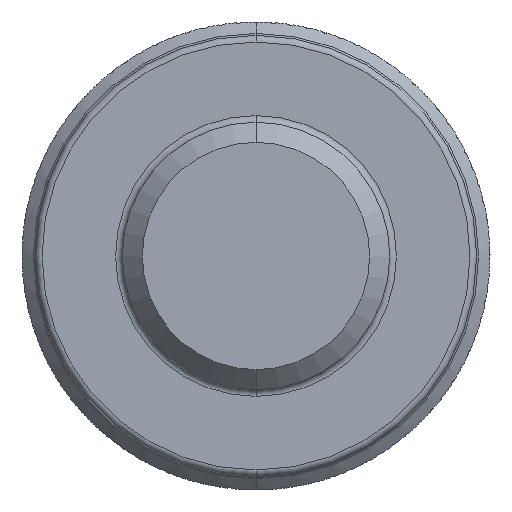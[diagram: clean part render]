
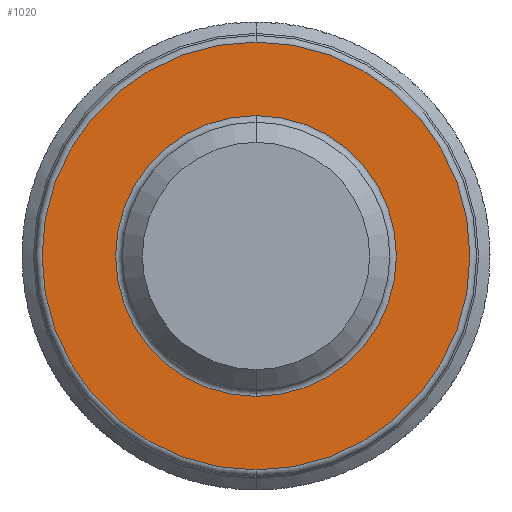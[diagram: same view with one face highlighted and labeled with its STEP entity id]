
A CAD part, front view. The second image highlights one B-rep face of the part: STEP entity #1020.
In plain terms, the highlighted planar face has unit normal (0, -1, 0).
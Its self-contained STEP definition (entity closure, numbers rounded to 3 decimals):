
#273 = ORIENTED_EDGE ( 'NONE', *, *, #5139, .T. ) ;
#515 = CARTESIAN_POINT ( 'NONE',  ( 0., -4., 0. ) ) ;
#608 = AXIS2_PLACEMENT_3D ( 'NONE', #515, #2729, #4803 ) ;
#1020 = ADVANCED_FACE ( 'NONE', ( #6408, #3819 ), #2964, .T. ) ;
#1300 = CARTESIAN_POINT ( 'NONE',  ( 0., -4., 0. ) ) ;
#1434 = CARTESIAN_POINT ( 'NONE',  ( 0., -4., -2.1 ) ) ;
#1842 = CIRCLE ( 'NONE', #7679, 3.2 ) ;
#1925 = CARTESIAN_POINT ( 'NONE',  ( 0., -4., -3.2 ) ) ;
#2433 = ORIENTED_EDGE ( 'NONE', *, *, #9473, .T. ) ;
#2707 = DIRECTION ( 'NONE',  ( 0., 0., -1. ) ) ;
#2729 = DIRECTION ( 'NONE',  ( 0., -1., 0. ) ) ;
#2964 = PLANE ( 'NONE',  #4571 ) ;
#2998 = CARTESIAN_POINT ( 'NONE',  ( 0., -4., 3.2 ) ) ;
#3181 = DIRECTION ( 'NONE',  ( 0., -1., 0. ) ) ;
#3558 = CARTESIAN_POINT ( 'NONE',  ( 0., -4., 0. ) ) ;
#3697 = EDGE_CURVE ( 'NONE', #5192, #6979, #7889, .T. ) ;
#3819 = FACE_OUTER_BOUND ( 'NONE', #7262, .T. ) ;
#3980 = CARTESIAN_POINT ( 'NONE',  ( 2., -4., 0. ) ) ;
#4137 = EDGE_LOOP ( 'NONE', ( #9207, #2433 ) ) ;
#4571 = AXIS2_PLACEMENT_3D ( 'NONE', #3980, #3181, #6351 ) ;
#4617 = DIRECTION ( 'NONE',  ( 0., 0., -1. ) ) ;
#4669 = DIRECTION ( 'NONE',  ( 0., 1., 0. ) ) ;
#4684 = AXIS2_PLACEMENT_3D ( 'NONE', #1300, #4669, #4617 ) ;
#4803 = DIRECTION ( 'NONE',  ( 0., 0., -1. ) ) ;
#4993 = EDGE_CURVE ( 'NONE', #9882, #8400, #1842, .T. ) ;
#5139 = EDGE_CURVE ( 'NONE', #8400, #9882, #6959, .T. ) ;
#5192 = VERTEX_POINT ( 'NONE', #1434 ) ;
#5693 = ORIENTED_EDGE ( 'NONE', *, *, #4993, .T. ) ;
#6016 = CARTESIAN_POINT ( 'NONE',  ( 0., -4., 2.1 ) ) ;
#6351 = DIRECTION ( 'NONE',  ( 0., 0., -1. ) ) ;
#6408 = FACE_BOUND ( 'NONE', #4137, .T. ) ;
#6647 = CARTESIAN_POINT ( 'NONE',  ( 0., -4., 0. ) ) ;
#6752 = DIRECTION ( 'NONE',  ( 0., -1., 0. ) ) ;
#6959 = CIRCLE ( 'NONE', #608, 3.2 ) ;
#6979 = VERTEX_POINT ( 'NONE', #6016 ) ;
#7262 = EDGE_LOOP ( 'NONE', ( #273, #5693 ) ) ;
#7465 = DIRECTION ( 'NONE',  ( 0., 0., -1. ) ) ;
#7679 = AXIS2_PLACEMENT_3D ( 'NONE', #6647, #6752, #7465 ) ;
#7889 = CIRCLE ( 'NONE', #8237, 2.1 ) ;
#7961 = CIRCLE ( 'NONE', #4684, 2.1 ) ;
#8237 = AXIS2_PLACEMENT_3D ( 'NONE', #3558, #10059, #2707 ) ;
#8400 = VERTEX_POINT ( 'NONE', #1925 ) ;
#9207 = ORIENTED_EDGE ( 'NONE', *, *, #3697, .T. ) ;
#9473 = EDGE_CURVE ( 'NONE', #6979, #5192, #7961, .T. ) ;
#9882 = VERTEX_POINT ( 'NONE', #2998 ) ;
#10059 = DIRECTION ( 'NONE',  ( 0., 1., 0. ) ) ;
